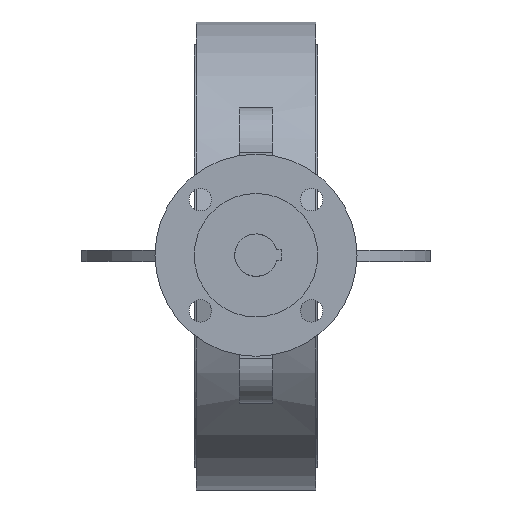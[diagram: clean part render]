
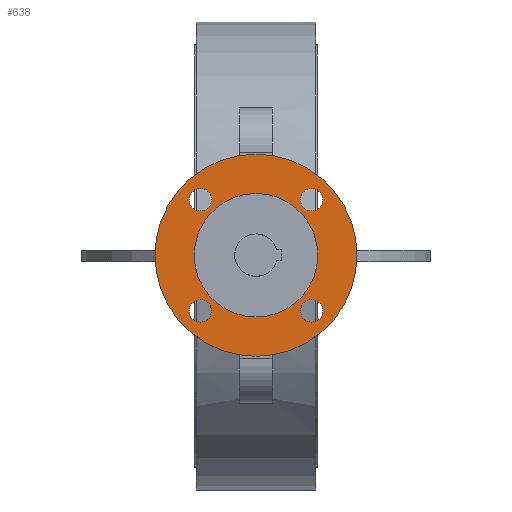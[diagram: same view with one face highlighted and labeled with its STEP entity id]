
A CAD part, top view. The second image highlights one B-rep face of the part: STEP entity #638.
In plain terms, the highlighted planar face has unit normal (0, 0, 1).
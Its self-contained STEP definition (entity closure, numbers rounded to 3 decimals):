
#638=ADVANCED_FACE('',(#1405,#1407,#1409,#1411,#1413,#1415),#1417,.T.);
#1405=FACE_BOUND('',#1406,.T.);
#1406=EDGE_LOOP('',(#1920));
#1407=FACE_BOUND('',#1408,.T.);
#1408=EDGE_LOOP('',(#1921));
#1409=FACE_BOUND('',#1410,.T.);
#1410=EDGE_LOOP('',(#1922));
#1411=FACE_BOUND('',#1412,.T.);
#1412=EDGE_LOOP('',(#1923));
#1413=FACE_BOUND('',#1414,.T.);
#1414=EDGE_LOOP('',(#1924));
#1415=FACE_BOUND('',#1416,.T.);
#1416=EDGE_LOOP('',(#1925));
#1417=PLANE('',#1418);
#1418=AXIS2_PLACEMENT_3D('',#1419,#1420,#1421);
#1419=CARTESIAN_POINT('',(0.,0.,195.));
#1420=DIRECTION('',(0.,0.,1.));
#1421=DIRECTION('',(0.,1.,0.));
#1920=ORIENTED_EDGE('',*,*,#2176,.F.);
#1921=ORIENTED_EDGE('',*,*,#2177,.T.);
#1922=ORIENTED_EDGE('',*,*,#2178,.T.);
#1923=ORIENTED_EDGE('',*,*,#2179,.T.);
#1924=ORIENTED_EDGE('',*,*,#2195,.T.);
#1925=ORIENTED_EDGE('',*,*,#2180,.T.);
#2176=EDGE_CURVE('',#2493,#2493,#2494,.T.);
#2177=EDGE_CURVE('',#2495,#2495,#2496,.F.);
#2178=EDGE_CURVE('',#2497,#2497,#2498,.F.);
#2179=EDGE_CURVE('',#2499,#2499,#2500,.F.);
#2180=EDGE_CURVE('',#2501,#2501,#2502,.F.);
#2195=EDGE_CURVE('',#2531,#2531,#2532,.T.);
#2493=VERTEX_POINT('',#4365);
#2494=CIRCLE('',#4366,45.);
#2495=VERTEX_POINT('',#4370);
#2496=CIRCLE('',#4371,5.);
#2497=VERTEX_POINT('',#4375);
#2498=CIRCLE('',#4376,5.);
#2499=VERTEX_POINT('',#4380);
#2500=CIRCLE('',#4381,5.);
#2501=VERTEX_POINT('',#4385);
#2502=CIRCLE('',#4386,5.);
#2531=VERTEX_POINT('',#4453);
#2532=CIRCLE('',#4454,27.5);
#4365=CARTESIAN_POINT('',(0.,45.,195.));
#4366=AXIS2_PLACEMENT_3D('',#4367,#4368,#4369);
#4367=CARTESIAN_POINT('',(0.,0.,195.));
#4368=DIRECTION('',(0.,0.,-1.));
#4369=DIRECTION('',(0.,1.,0.));
#4370=CARTESIAN_POINT('',(-19.749,-24.749,195.));
#4371=AXIS2_PLACEMENT_3D('',#4372,#4373,#4374);
#4372=CARTESIAN_POINT('',(-24.749,-24.749,195.));
#4373=DIRECTION('',(0.,0.,1.));
#4374=DIRECTION('',(1.,0.,0.));
#4375=CARTESIAN_POINT('',(-24.749,19.749,195.));
#4376=AXIS2_PLACEMENT_3D('',#4377,#4378,#4379);
#4377=CARTESIAN_POINT('',(-24.749,24.749,195.));
#4378=DIRECTION('',(0.,0.,1.));
#4379=DIRECTION('',(0.,-1.,0.));
#4380=CARTESIAN_POINT('',(19.749,24.749,195.));
#4381=AXIS2_PLACEMENT_3D('',#4382,#4383,#4384);
#4382=CARTESIAN_POINT('',(24.749,24.749,195.));
#4383=DIRECTION('',(0.,0.,1.));
#4384=DIRECTION('',(-1.,0.,0.));
#4385=CARTESIAN_POINT('',(24.749,-19.749,195.));
#4386=AXIS2_PLACEMENT_3D('',#4387,#4388,#4389);
#4387=CARTESIAN_POINT('',(24.749,-24.749,195.));
#4388=DIRECTION('',(0.,0.,1.));
#4389=DIRECTION('',(0.,1.,0.));
#4453=CARTESIAN_POINT('',(0.,27.5,195.));
#4454=AXIS2_PLACEMENT_3D('',#4455,#4456,#4457);
#4455=CARTESIAN_POINT('',(0.,0.,195.));
#4456=DIRECTION('',(0.,0.,-1.));
#4457=DIRECTION('',(0.,1.,0.));
